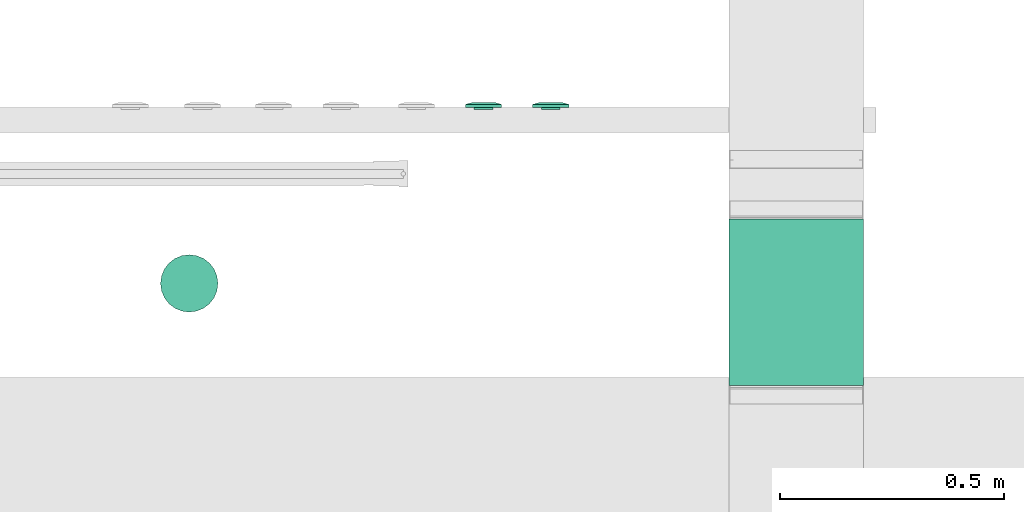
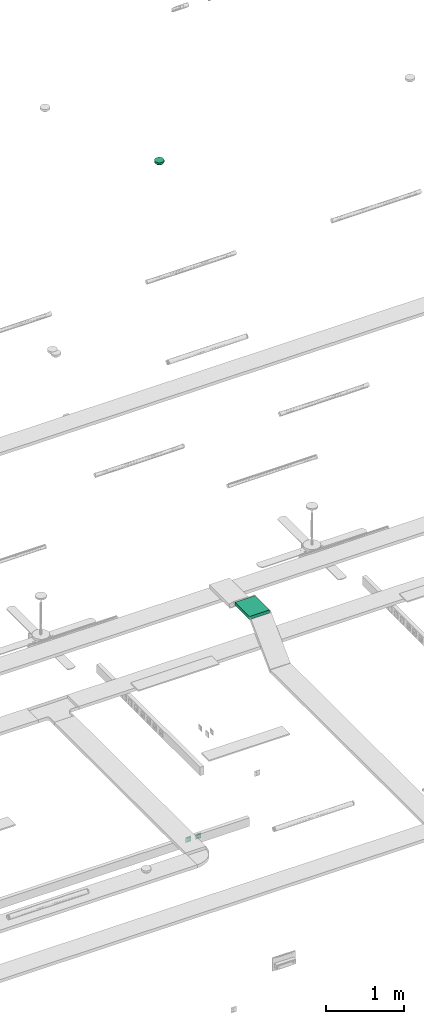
# One storey, part 99 of 153: 3 flow terminals, 1 flow segment.
"""IFC2X3 building model written with IfcOpenShell, lengths in metres."""

from ifc_helpers import new_model, entity, si_unit, converted_unit, derived_unit, direction, frame, origin, origin_2d_with_axis, place, context, subcontext, project, spatial, rectangle, extrude, faceted_brep, source, transform, mapped, type_object, type_shapes, element, save


model = new_model("IFC2X3")

# Units and contexts
model_context = context("Model", 3, precision=1e-05, world=origin(), true_north=direction((6.12303176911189e-17, 1.0)))
body_context = subcontext(model_context, "Body", "Model", "MODEL_VIEW")
ifc_project = project(units=[si_unit("LENGTHUNIT", "METRE"), si_unit("AREAUNIT", "SQUARE_METRE"), si_unit("VOLUMEUNIT", "CUBIC_METRE"), converted_unit("PLANEANGLEUNIT", "DEGREE", entity("IfcRatioMeasure", 0.0174532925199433), si_unit("PLANEANGLEUNIT", "RADIAN"), dimensions=[0, 0, 0, 0, 0, 0, 0]), si_unit("MASSUNIT", "GRAM", prefix="KILO"), derived_unit("MASSDENSITYUNIT", [(si_unit("MASSUNIT", "GRAM", prefix="KILO"), 1), (si_unit("LENGTHUNIT", "METRE"), -3)]), si_unit("TIMEUNIT", "SECOND"), si_unit("FREQUENCYUNIT", "HERTZ"), si_unit("THERMODYNAMICTEMPERATUREUNIT", "DEGREE_CELSIUS"), derived_unit("THERMALTRANSMITTANCEUNIT", [(si_unit("MASSUNIT", "GRAM", prefix="KILO"), 1), (si_unit("THERMODYNAMICTEMPERATUREUNIT", "KELVIN"), -1), (si_unit("TIMEUNIT", "SECOND"), -3)]), derived_unit("VOLUMETRICFLOWRATEUNIT", [(si_unit("LENGTHUNIT", "METRE"), 3), (si_unit("TIMEUNIT", "SECOND"), -1)]), si_unit("ELECTRICCURRENTUNIT", "AMPERE"), si_unit("ELECTRICVOLTAGEUNIT", "VOLT"), si_unit("POWERUNIT", "WATT"), si_unit("FORCEUNIT", "NEWTON"), si_unit("ILLUMINANCEUNIT", "LUX"), si_unit("LUMINOUSFLUXUNIT", "LUMEN"), si_unit("LUMINOUSINTENSITYUNIT", "CANDELA"), derived_unit("USERDEFINED", [(si_unit("MASSUNIT", "GRAM", prefix="KILO"), -1), (si_unit("LENGTHUNIT", "METRE"), -2), (si_unit("TIMEUNIT", "SECOND"), 3), (si_unit("LUMINOUSFLUXUNIT", "LUMEN"), 1)]), derived_unit("LINEARVELOCITYUNIT", [(si_unit("LENGTHUNIT", "METRE"), 1), (si_unit("TIMEUNIT", "SECOND"), -1)]), si_unit("PRESSUREUNIT", "PASCAL"), derived_unit("USERDEFINED", [(si_unit("LENGTHUNIT", "METRE"), -2), (si_unit("MASSUNIT", "GRAM", prefix="KILO"), 1), (si_unit("TIMEUNIT", "SECOND"), -2)])], contexts=[model_context])

# Site, building, storey
site_placement = place(None, origin())
site = spatial("IfcSite", under=ifc_project, at=site_placement, Name="Default", CompositionType="ELEMENT")
building_placement = place(site_placement, origin())
building = spatial("IfcBuilding", under=site, at=building_placement, CompositionType="ELEMENT")
storey_placement = place(building_placement, frame((0.0, 0.0, -4.62)))
storey = spatial("IfcBuildingStorey", under=building, at=storey_placement, Name="S02", CompositionType="ELEMENT", Elevation=-4.62)

# Flow terminals
electric_appliance_type = type_object("IfcElectricApplianceType", Name="RJ45 IP20", PredefinedType="NOTDEFINED")
shared_shape_1 = source(origin(), body_context, "Body", "Brep", [
    faceted_brep([(0.00200000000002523, 0.0, 0.00799999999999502), (0.00400000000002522, 0.0, 0.00799999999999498), (0.00500000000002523, 0.00199999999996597, 0.00799999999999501), (0.0110000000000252, 0.00199999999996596, 0.00799999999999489), (0.0120000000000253, 0.0, 0.00799999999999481), (0.0140000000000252, 0.0, 0.00799999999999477), (0.0140000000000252, 0.00399999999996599, 0.00799999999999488), (0.00200000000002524, 0.00399999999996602, 0.00799999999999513), (0.00200000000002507, 0.0, 0.0), (0.00200000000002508, 0.00399999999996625, 0.0), (0.0140000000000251, 0.00399999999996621, 0.0), (0.0140000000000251, 0.0, 0.0), (0.0120000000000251, 0.0, 0.0), (0.0110000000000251, 0.00199999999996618, 0.0), (0.00500000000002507, 0.0019999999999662, 0.0), (0.00400000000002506, 0.0, 0.0)], [[[0, 1, 2, 3, 4, 5, 6, 7]], [[8, 9, 10, 11, 12, 13, 14, 15]], [[1, 0, 8, 15]], [[2, 1, 15, 14]], [[3, 2, 14, 13]], [[4, 3, 13, 12]], [[5, 4, 12, 11]], [[6, 5, 11, 10]], [[7, 6, 10, 9]], [[0, 7, 9, 8]]]),
    faceted_brep([(-0.0139999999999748, 0.0, 0.00799999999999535), (-0.0119999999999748, 0.0, 0.00799999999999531), (-0.0109999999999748, 0.00199999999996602, 0.00799999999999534), (-0.00499999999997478, 0.00199999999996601, 0.00799999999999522), (-0.0039999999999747, 0.0, 0.00799999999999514), (-0.00199999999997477, 0.0, 0.0079999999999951), (-0.00199999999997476, 0.00399999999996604, 0.00799999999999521), (-0.0139999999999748, 0.00399999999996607, 0.00799999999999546), (-0.0139999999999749, 0.0, 0.0), (-0.0139999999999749, 0.00399999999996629, 0.0), (-0.00199999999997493, 0.00399999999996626, 0.0), (-0.00199999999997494, 0.0, 0.0), (-0.00399999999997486, 0.0, 0.0), (-0.00499999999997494, 0.00199999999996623, 0.0), (-0.0109999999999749, 0.00199999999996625, 0.0), (-0.0119999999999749, 0.0, 0.0)], [[[0, 1, 2, 3, 4, 5, 6, 7]], [[8, 9, 10, 11, 12, 13, 14, 15]], [[1, 0, 8, 15]], [[2, 1, 15, 14]], [[3, 2, 14, 13]], [[4, 3, 13, 12]], [[5, 4, 12, 11]], [[6, 5, 11, 10]], [[7, 6, 10, 9]], [[0, 7, 9, 8]]]),
    faceted_brep([(0.0140000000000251, 0.00399999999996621, 0.0), (0.00200000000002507, 0.00399999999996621, 0.0), (0.00200000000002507, -0.00350000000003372, 0.0), (0.0140000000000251, -0.00350000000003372, 0.0), (0.0140000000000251, 0.00399999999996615, 0.00199999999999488), (0.00200000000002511, 0.00399999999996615, 0.00199999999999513), (0.00200000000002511, -0.00393859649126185, 0.00199999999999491), (0.0140000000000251, -0.00393859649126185, 0.00199999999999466), (0.0210000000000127, 0.0209999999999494, 0.00199999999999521), (-0.0209999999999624, 0.0209999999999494, 0.00199999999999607), (-0.0209999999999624, -0.0210000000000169, 0.00199999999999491), (0.0210000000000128, -0.0210000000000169, 0.00199999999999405), (-0.0139999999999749, 0.0039999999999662, 0.00199999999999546), (-0.0019999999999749, 0.0039999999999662, 0.00199999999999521), (-0.00199999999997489, -0.0039385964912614, 0.00199999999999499), (-0.0139999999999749, -0.00393859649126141, 0.00199999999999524), (0.0210000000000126, 0.0209999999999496, -0.00460000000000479), (0.0210000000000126, -0.0210000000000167, -0.00460000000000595), (-0.0209999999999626, -0.0210000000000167, -0.00460000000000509), (-0.0209999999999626, 0.0209999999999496, -0.00460000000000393), (-0.00199999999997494, 0.00399999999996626, 0.0), (-0.0139999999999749, 0.00399999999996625, 0.0), (-0.0139999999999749, -0.00350000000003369, 0.0), (-0.00199999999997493, -0.00350000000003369, 0.0)], [[[0, 1, 2, 3]], [[1, 0, 4, 5]], [[2, 1, 5, 6]], [[3, 2, 6, 7]], [[0, 3, 7, 4]], [[5, 4, 7, 6], [8, 9, 10, 11], [12, 13, 14, 15]], [[16, 17, 18, 19]], [[9, 8, 16, 19]], [[10, 9, 19, 18]], [[11, 10, 18, 17]], [[8, 11, 17, 16]], [[20, 21, 22, 23]], [[21, 20, 13, 12]], [[22, 21, 12, 15]], [[23, 22, 15, 14]], [[20, 23, 14, 13]]], outer=[[True], [True], [True], [True], [True], [False, True, False], [True], [True], [True], [True], [True], [True], [True], [True], [True], [True]]),
    faceted_brep([(0.0270000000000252, 0.026999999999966, 0.0113999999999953), (-0.0269999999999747, 0.026999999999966, 0.0113999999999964), (-0.0269999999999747, -0.0270000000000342, 0.0113999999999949), (0.0270000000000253, -0.0270000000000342, 0.0113999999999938), (0.0020000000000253, 0.00399999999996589, 0.0113999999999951), (0.0140000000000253, 0.00399999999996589, 0.0113999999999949), (0.0140000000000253, -0.00600000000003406, 0.0113999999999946), (0.0020000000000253, -0.00600000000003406, 0.0113999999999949), (-0.0139999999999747, 0.00399999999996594, 0.0113999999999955), (-0.00199999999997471, 0.00399999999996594, 0.0113999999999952), (-0.00199999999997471, -0.0060000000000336, 0.0113999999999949), (-0.0139999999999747, -0.00600000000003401, 0.0113999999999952), (0.0270000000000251, 0.0269999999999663, 0.00199999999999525), (0.0270000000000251, -0.0270000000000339, 0.00199999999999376), (-0.0269999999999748, -0.0270000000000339, 0.00199999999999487), (-0.0269999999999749, 0.0269999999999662, 0.00199999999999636), (0.0140000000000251, 0.00399999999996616, 0.00199999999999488), (0.00200000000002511, 0.00399999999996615, 0.00199999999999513), (0.00200000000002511, -0.00393859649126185, 0.00199999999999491), (0.0140000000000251, -0.00393859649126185, 0.00199999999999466), (-0.00199999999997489, 0.0039999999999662, 0.00199999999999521), (-0.0139999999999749, 0.0039999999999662, 0.00199999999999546), (-0.0139999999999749, -0.0039385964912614, 0.00199999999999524), (-0.00199999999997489, -0.0039385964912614, 0.00199999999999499)], [[[0, 1, 2, 3], [4, 5, 6, 7], [8, 9, 10, 11]], [[12, 13, 14, 15], [16, 17, 18, 19], [20, 21, 22, 23]], [[1, 0, 12, 15]], [[2, 1, 15, 14]], [[3, 2, 14, 13]], [[0, 3, 13, 12]], [[4, 17, 16, 5]], [[17, 4, 7, 18]], [[18, 7, 6, 19]], [[5, 16, 19, 6]], [[8, 21, 20, 9]], [[21, 8, 11, 22]], [[22, 11, 10, 23]], [[9, 20, 23, 10]]]),
    faceted_brep([(0.027000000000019, 0.0269999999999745, 0.00659999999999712), (-0.0269999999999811, 0.0269999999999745, 0.00659999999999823), (-0.026999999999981, -0.0270000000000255, 0.00659999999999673), (0.027000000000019, -0.0270000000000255, 0.00659999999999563), (0.040350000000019, 0.0403499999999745, 0.00659999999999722), (0.040350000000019, -0.0403500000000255, 0.00659999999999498), (-0.0403499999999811, -0.0403500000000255, 0.00659999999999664), (-0.0403499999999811, 0.0403499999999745, 0.00659999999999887), (-0.026999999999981, 0.0269999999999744, 0.0103999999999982), (0.027000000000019, 0.0269999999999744, 0.0103999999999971), (-0.026999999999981, -0.0270000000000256, 0.0103999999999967), (0.027000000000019, -0.0270000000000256, 0.0103999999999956)], [[[0, 1, 2, 3], [4, 5, 6, 7]], [[4, 7, 8, 9]], [[7, 6, 10, 8]], [[6, 5, 11, 10]], [[5, 4, 9, 11]], [[0, 9, 8, 1]], [[1, 8, 10, 2]], [[2, 10, 11, 3]], [[9, 0, 3, 11]]], outer=[[False, True], [True], [True], [True], [True], [True], [True], [True], [True]]),
    faceted_brep([(0.040350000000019, 0.0403499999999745, 0.00659999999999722), (-0.0403499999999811, 0.0403499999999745, 0.00659999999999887), (-0.0403499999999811, -0.0403500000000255, 0.00659999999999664), (0.040350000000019, -0.0403500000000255, 0.00659999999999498), (-0.0269999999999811, 0.0269999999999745, 0.00659999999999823), (0.0270000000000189, 0.0269999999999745, 0.00659999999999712), (0.0270000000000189, -0.0270000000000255, 0.00659999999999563), (-0.0269999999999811, -0.0270000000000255, 0.00659999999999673), (0.0403500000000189, 0.0403499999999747, 0.0), (0.0403500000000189, -0.0403500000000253, 0.0), (-0.0403499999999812, -0.0403500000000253, 0.0), (-0.0403499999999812, 0.0403499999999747, 0.0), (0.0270000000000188, 0.0269999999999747, 0.0), (-0.0269999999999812, 0.0269999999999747, 0.0), (-0.0269999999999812, -0.0270000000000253, 0.0), (0.0270000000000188, -0.0270000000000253, 0.0)], [[[0, 1, 2, 3], [4, 5, 6, 7]], [[8, 9, 10, 11], [12, 13, 14, 15]], [[1, 0, 8, 11]], [[2, 1, 11, 10]], [[3, 2, 10, 9]], [[0, 3, 9, 8]], [[12, 5, 4, 13]], [[13, 4, 7, 14]], [[14, 7, 6, 15]], [[5, 12, 15, 6]]]),
])
type_shapes(electric_appliance_type, [shared_shape_1])
for number, where, z_axis, x_axis in (
    (1, (56.5023946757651, -189.113069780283, -4.18699999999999), (0.0, 1.0, 0.0), (-1.0, 0.0, 0.0)),
    (2, (56.6523946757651, -189.113069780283, -4.18700000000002), (0.0, 1.0, 0.0), (1.0, 0.0, 0.0)),
):
    element("IfcFlowTerminal", number, at=place(building_placement, frame(where, z_axis=z_axis, x_axis=x_axis)), inside=storey, type_object=electric_appliance_type, Name="INT_Prise RJ45:RJ45 IP20", ObjectType="INT_Prise RJ45:RJ45 IP20", context=body_context, shape_type="MappedRepresentation", body=[
        mapped(shared_shape_1, transform((0.0, 0.0, 0.0), scale=1.0)),
    ])

# Flow segment
cable_carrier_segment_type = type_object("IfcCableCarrierSegmentType", Name="Cable Tray with Fittings:Chemins de câbles en treillis_Chemins de câbles en treillis", PredefinedType="NOTDEFINED")
flow_segment_placement = place(building_placement, frame((0.0, 0.0, -4.62)))
element("IfcFlowSegment", 3, at=flow_segment_placement, inside=storey, type_object=cable_carrier_segment_type, Name="Cable Tray with Fittings:Chemins de câbles en treillis_Chemins de câbles en treillis", ObjectType="Cable Tray with Fittings:Chemins de câbles en treillis_Chemins de câbles en treillis", context=body_context, shape_type="SweptSolid", body=[
    extrude(rectangle(XDim=0.371697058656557, YDim=0.300000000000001, at=origin_2d_with_axis()), frame((57.2004483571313, -189.548599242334, 4.06057211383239), z_axis=(0.0, 0.0, 1.0), x_axis=(0.0, 1.0, 0.0)), (0.0, 0.0, 1.0), 0.05),
])

# Flow terminal
light_fixture_type = type_object("IfcLightFixtureType", Name="Détecteur 360°", PredefinedType="NOTDEFINED")
shared_shape_2 = source(origin(), body_context, "Body", "Brep", [
    faceted_brep([(0.0, -0.0397165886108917, 0.0531256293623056), (0.0, -0.034524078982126, 0.0563702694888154), (-0.0175153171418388, -0.0435914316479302, 0.0478512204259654), (-0.0194029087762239, -0.000878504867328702, 0.0644483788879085), (0.0, 0.0, 0.0669999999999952), (0.0, 0.00603476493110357, 0.0659648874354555), (-0.0174057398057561, -0.0159851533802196, 0.0630502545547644), (-0.0366619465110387, -0.0127227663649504, 0.0549213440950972), (-0.026998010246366, -0.0195753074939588, 0.0584711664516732), (-0.0202403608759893, -0.0335607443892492, 0.054639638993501), (-0.0359767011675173, -0.0348394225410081, 0.0444249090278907), (-0.0276843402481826, -0.0401006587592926, 0.0459804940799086), (-0.0133088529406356, -0.0517577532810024, 0.0400582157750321), (-0.0172617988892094, -0.0486391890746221, 0.042533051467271), (-0.0256912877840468, -0.0533485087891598, 0.0299999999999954), (-0.0462941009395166, -0.0369183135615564, 0.0299999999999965), (0.0, -0.0241390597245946, 0.0628595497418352), (-0.0186245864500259, -0.0267295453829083, 0.0589100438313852), (-0.0139070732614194, -0.0374370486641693, 0.0540817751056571), (0.0, 0.0449090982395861, 0.049880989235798), (-0.0172618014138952, 0.0486391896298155, 0.0425330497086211), (0.0, 0.0397165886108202, 0.0531256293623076), (-0.0186245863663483, 0.0267295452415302, 0.0589100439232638), (-0.0202403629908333, 0.0335607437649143, 0.054639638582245), (-0.0353547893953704, 0.0284533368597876, 0.0494330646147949), (0.0, 0.0120695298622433, 0.0649297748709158), (-0.0249385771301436, 0.0204731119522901, 0.0590841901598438), (-0.0191783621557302, 0.0150189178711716, 0.062775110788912), (-0.0465404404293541, -0.0196510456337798, 0.0438984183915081), (-0.052010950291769, -0.0250471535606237, 0.029999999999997), (-0.0453471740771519, -0.0286501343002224, 0.0397747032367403), (-0.0365036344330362, -0.0226255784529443, 0.0516441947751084), (-0.0175153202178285, 0.0435914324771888, 0.0478512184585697), (-0.0359926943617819, 0.0451334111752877, 0.0299999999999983), (-0.0276843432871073, 0.0401006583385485, 0.0459804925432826), (-0.00849704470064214, -0.0572729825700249, 0.0299999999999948), (0.0, -0.0592123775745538, 0.0299999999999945), (0.0, -0.0545512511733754, 0.0364787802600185), (0.0, -0.049890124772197, 0.0429575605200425), (-0.0169940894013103, -0.055333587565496, 0.0299999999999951), (-0.0359767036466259, 0.0348394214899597, 0.0444249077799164), (-0.025691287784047, 0.0533485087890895, 0.0299999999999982), (-0.0308419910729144, 0.0492409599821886, 0.0299999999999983), (-0.0130265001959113, 0.0514867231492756, 0.040526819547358), (-0.0169940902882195, 0.0553335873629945, 0.029999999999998), (0.0, 0.0498901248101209, 0.0429575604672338), (-0.0353547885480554, -0.0284533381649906, 0.0494330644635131), (0.0, 0.0181042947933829, 0.0638946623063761), (-0.0473669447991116, -0.00128092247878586, 0.0474310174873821), (-0.0485435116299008, -0.00908961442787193, 0.0452357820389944), (-0.0366597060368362, -0.0032867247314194, 0.0563153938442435), (-0.0226425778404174, -0.0107553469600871, 0.0624973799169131), (0.0, -0.00603476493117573, 0.0659648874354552), (0.0, 0.0293315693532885, 0.0596149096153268), (-0.0139070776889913, 0.0374370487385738, 0.0540817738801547), (-0.0449600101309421, 0.018422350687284, 0.0461366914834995), (-0.0453471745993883, 0.0286501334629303, 0.0397747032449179), (-0.0476906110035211, 0.00670602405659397, 0.0466053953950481), (-0.0577277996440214, 0.0131759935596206, 0.0299999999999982), (-0.0577277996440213, 0.00658799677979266, 0.029999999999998), (-0.0577277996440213, 0.0, 0.0299999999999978), (0.0, -0.0449090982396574, 0.0498809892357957), (-0.0308419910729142, -0.049240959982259, 0.0299999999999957), (-0.0359926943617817, -0.0451334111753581, 0.029999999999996), (0.0, 0.0345240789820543, 0.0563702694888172), (-0.0411433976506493, 0.0410258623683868, 0.0299999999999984), (-0.0462941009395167, 0.0369183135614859, 0.0299999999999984), (-0.0491525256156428, -0.03098273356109, 0.0299999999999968), (-0.0577277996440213, -0.0131759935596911, 0.0299999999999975), (0.0, -0.018104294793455, 0.0638946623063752), (-0.0377433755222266, 0.0044838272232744, 0.0554913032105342), (-0.0577277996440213, -0.00658799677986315, 0.0299999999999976), (-0.0385149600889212, 0.0124844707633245, 0.0536578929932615), (-0.0491525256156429, 0.0309827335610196, 0.0299999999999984), (-0.0548693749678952, 0.0191115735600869, 0.0299999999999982), (0.0, 0.0241390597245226, 0.0628595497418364), (-0.014625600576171, 0.0100436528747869, 0.0649170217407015), (-0.0271766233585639, 0.00920278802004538, 0.0609170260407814), (0.0, -0.0120695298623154, 0.0649297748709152), (-0.0520109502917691, 0.0250471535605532, 0.0299999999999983), (-0.0411433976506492, -0.0410258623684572, 0.0299999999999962), (-0.0548693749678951, -0.0191115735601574, 0.0299999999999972), (0.0, -0.0293315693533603, 0.0596149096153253), (0.0, 0.0545512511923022, 0.0364787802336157), (0.0, 0.0592123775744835, 0.0299999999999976), (-0.00849704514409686, 0.057272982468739, 0.0299999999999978), (-0.0127455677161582, 0.0563032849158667, 0.0299999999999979), (-0.0213426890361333, 0.054341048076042, 0.0299999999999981), (0.0175153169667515, 0.0435914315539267, 0.0478512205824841), (0.0194029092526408, 0.000878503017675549, 0.0644483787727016), (0.017405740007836, 0.0159851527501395, 0.0630502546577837), (0.0366619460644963, 0.012722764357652, 0.0549213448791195), (0.0269980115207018, 0.0195753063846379, 0.0584711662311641), (0.0202403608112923, 0.0335607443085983, 0.0546396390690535), (0.0359767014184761, 0.0348394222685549, 0.0444249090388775), (0.0276843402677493, 0.0401006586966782, 0.0459804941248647), (0.0133088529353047, 0.0517577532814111, 0.0400582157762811), (0.0172617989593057, 0.0486391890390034, 0.0425330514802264), (0.0256912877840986, 0.0533485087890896, 0.0299999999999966), (0.0462941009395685, 0.0369183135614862, 0.0299999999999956), (0.00849704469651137, 0.0572729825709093, 0.0299999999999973), (0.0169940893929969, 0.0553335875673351, 0.029999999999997), (0.0172617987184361, -0.0486391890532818, 0.0425330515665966), (0.025691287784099, -0.0533485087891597, 0.0299999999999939), (0.0308419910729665, -0.0492409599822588, 0.0299999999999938), (0.0175153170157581, -0.0435914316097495, 0.0478512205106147), (0.0186245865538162, -0.0267295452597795, 0.0589100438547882), (0.0202403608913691, -0.03356074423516, 0.0546396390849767), (0.0353547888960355, -0.0284533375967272, 0.0494330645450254), (0.0249385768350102, -0.0204731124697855, 0.0590841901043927), (0.0191783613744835, -0.0150189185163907, 0.062775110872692), (0.0465404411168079, 0.0196510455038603, 0.0438984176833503), (0.0577277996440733, 0.0131759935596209, 0.0299999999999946), (0.0548693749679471, 0.0191115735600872, 0.0299999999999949), (0.0520109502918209, 0.0250471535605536, 0.0299999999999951), (0.0365036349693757, 0.0226255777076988, 0.0516441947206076), (0.0186245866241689, 0.0267295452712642, 0.0589100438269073), (0.0359926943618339, -0.0451334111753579, 0.0299999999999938), (0.0276843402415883, -0.0401006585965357, 0.0459804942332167), (0.0139070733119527, 0.0374370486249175, 0.0540817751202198), (0.0359767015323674, -0.0348394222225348, 0.044424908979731), (0.0226425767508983, 0.0107553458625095, 0.0624973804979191), (0.0169940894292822, -0.0553335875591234, 0.0299999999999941), (0.0130264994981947, -0.0514867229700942, 0.0405268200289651), (0.0453471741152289, 0.0286501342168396, 0.039774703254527), (0.0353547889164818, 0.0284533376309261, 0.0494330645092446), (0.0473669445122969, 0.00128092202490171, 0.0474310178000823), (0.0485435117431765, 0.00908961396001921, 0.0452357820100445), (0.0366597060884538, 0.00328672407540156, 0.0563153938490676), (0.0139070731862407, -0.0374370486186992, 0.0540817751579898), (0.0449600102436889, -0.018422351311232, 0.0461366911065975), (0.0453471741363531, -0.0286501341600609, 0.039774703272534), (0.0476906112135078, -0.00670602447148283, 0.046605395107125), (0.0577277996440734, -0.0131759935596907, 0.0299999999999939), (0.0577277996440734, -0.00658799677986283, 0.0299999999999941), (0.0577277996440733, 0.0, 0.0299999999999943), (0.0308419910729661, 0.0492409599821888, 0.0299999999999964), (0.0359926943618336, 0.0451334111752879, 0.0299999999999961), (0.0411433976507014, -0.041025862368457, 0.0299999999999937), (0.0462941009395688, -0.0369183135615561, 0.0299999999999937), (0.0491525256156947, 0.0309827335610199, 0.0299999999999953), (0.037743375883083, -0.00448382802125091, 0.0554913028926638), (0.0577277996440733, 0.00658799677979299, 0.0299999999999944), (0.0385149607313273, -0.0124844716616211, 0.0536578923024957), (0.049152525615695, -0.0309827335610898, 0.0299999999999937), (0.0548693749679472, -0.0191115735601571, 0.0299999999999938), (0.0146256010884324, -0.0100436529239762, 0.0649170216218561), (0.0271766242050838, -0.00920278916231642, 0.0609170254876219), (0.0520109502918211, -0.0250471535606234, 0.0299999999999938), (0.041143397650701, 0.0410258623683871, 0.0299999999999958), (0.00849704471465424, -0.0572729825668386, 0.0299999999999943), (0.0127455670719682, -0.056303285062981, 0.0299999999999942), (0.0213426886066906, -0.0543410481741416, 0.029999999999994), (0.0, 0.0, 0.0299999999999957)], [[[0, 1, 2]], [[3, 4, 5]], [[6, 7, 8]], [[9, 10, 11]], [[12, 13, 14]], [[10, 15, 11]], [[9, 16, 17]], [[18, 9, 11]], [[19, 20, 21]], [[22, 23, 24]], [[25, 26, 27]], [[28, 29, 30]], [[8, 31, 17]], [[32, 33, 34]], [[35, 36, 37, 38, 39]], [[23, 40, 24]], [[20, 41, 42]], [[19, 43, 20]], [[44, 43, 45]], [[20, 32, 21]], [[30, 10, 46]], [[22, 26, 47]], [[48, 49, 50]], [[3, 51, 52]], [[53, 54, 23]], [[55, 24, 56]], [[57, 58, 59, 60]], [[13, 61, 0]], [[13, 0, 2]], [[2, 62, 13]], [[18, 2, 1]], [[2, 11, 63]], [[32, 64, 21]], [[32, 42, 33]], [[34, 33, 65, 66]], [[20, 42, 32]], [[54, 32, 34]], [[28, 30, 31]], [[10, 67, 15]], [[49, 68, 28]], [[8, 17, 69]], [[7, 6, 51]], [[28, 31, 7]], [[57, 48, 70]], [[58, 57, 55]], [[48, 71, 49]], [[70, 48, 50]], [[3, 50, 51]], [[55, 26, 24]], [[72, 57, 70]], [[26, 55, 72]], [[56, 40, 73]], [[56, 74, 55]], [[47, 75, 22]], [[52, 4, 3]], [[7, 50, 49]], [[5, 76, 3]], [[70, 3, 77]], [[51, 78, 52]], [[26, 25, 47]], [[76, 25, 27]], [[23, 22, 75]], [[26, 22, 24]], [[53, 64, 54]], [[23, 34, 40]], [[66, 40, 34]], [[40, 66, 73]], [[56, 73, 79, 74]], [[72, 27, 26]], [[40, 56, 24]], [[23, 75, 53]], [[69, 17, 16]], [[78, 6, 69]], [[46, 10, 9]], [[46, 9, 17]], [[50, 7, 51]], [[30, 29, 67]], [[80, 63, 11, 15]], [[28, 68, 81, 29]], [[10, 30, 67]], [[30, 46, 31]], [[82, 18, 1]], [[82, 16, 9]], [[28, 7, 49]], [[12, 39, 38]], [[61, 13, 12]], [[83, 84, 85, 86, 44, 45]], [[43, 41, 20]], [[44, 87, 41, 43]], [[32, 54, 64]], [[23, 54, 34]], [[9, 18, 82]], [[2, 18, 11]], [[39, 12, 14]], [[38, 61, 12]], [[62, 2, 63]], [[62, 14, 13]], [[17, 31, 46]], [[7, 31, 8]], [[48, 60, 71]], [[71, 68, 49]], [[60, 48, 57]], [[3, 70, 50]], [[72, 70, 77]], [[72, 77, 27]], [[55, 57, 72]], [[74, 58, 55]], [[76, 27, 77]], [[3, 76, 77]], [[25, 76, 5]], [[69, 6, 8]], [[78, 51, 6]], [[45, 43, 19]], [[21, 64, 88]], [[89, 4, 52]], [[90, 91, 92]], [[93, 94, 95]], [[96, 97, 98]], [[94, 99, 95]], [[100, 84, 83, 45, 101]], [[102, 103, 104]], [[102, 105, 0]], [[106, 107, 108]], [[78, 109, 110]], [[111, 112, 113, 114]], [[92, 115, 116]], [[105, 117, 118]], [[119, 93, 95]], [[107, 120, 108]], [[89, 121, 5]], [[122, 123, 38]], [[61, 123, 102]], [[93, 75, 116]], [[124, 94, 125]], [[106, 109, 69]], [[126, 127, 128]], [[61, 102, 0]], [[82, 129, 107]], [[130, 108, 131]], [[132, 133, 134, 135]], [[97, 19, 21]], [[97, 21, 88]], [[88, 136, 97]], [[119, 88, 64]], [[88, 95, 137]], [[105, 1, 0]], [[105, 104, 117]], [[118, 117, 138, 139]], [[102, 104, 105]], [[129, 105, 118]], [[111, 124, 115]], [[94, 140, 99]], [[127, 112, 111]], [[92, 116, 47]], [[91, 90, 121]], [[111, 115, 91]], [[132, 126, 141]], [[133, 132, 130]], [[126, 142, 127]], [[141, 126, 128]], [[89, 128, 121]], [[130, 109, 108]], [[143, 132, 141]], [[109, 130, 143]], [[131, 120, 144]], [[131, 145, 130]], [[69, 16, 106]], [[5, 4, 89]], [[91, 128, 127]], [[52, 146, 89]], [[141, 89, 147]], [[121, 25, 5]], [[109, 78, 69]], [[146, 78, 110]], [[107, 106, 16]], [[109, 106, 108]], [[82, 1, 129]], [[107, 118, 120]], [[139, 120, 118]], [[120, 139, 144]], [[131, 144, 148, 145]], [[143, 110, 109]], [[120, 131, 108]], [[107, 16, 82]], [[47, 116, 75]], [[25, 90, 47]], [[125, 94, 93]], [[125, 93, 116]], [[128, 91, 121]], [[124, 114, 140]], [[149, 137, 95, 99]], [[111, 114, 124]], [[94, 124, 140]], [[124, 125, 115]], [[53, 119, 64]], [[53, 75, 93]], [[111, 91, 127]], [[96, 101, 45]], [[19, 97, 96]], [[37, 36, 150, 151, 122, 38]], [[123, 103, 102]], [[122, 152, 103, 123]], [[105, 129, 1]], [[107, 129, 118]], [[93, 119, 53]], [[88, 119, 95]], [[101, 96, 98]], [[45, 19, 96]], [[136, 88, 137]], [[136, 98, 97]], [[116, 115, 125]], [[91, 115, 92]], [[126, 135, 142]], [[142, 112, 127]], [[135, 126, 132]], [[89, 141, 128]], [[143, 141, 147]], [[143, 147, 110]], [[130, 132, 143]], [[145, 133, 130]], [[146, 110, 147]], [[89, 146, 147]], [[78, 146, 52]], [[47, 90, 92]], [[25, 121, 90]], [[38, 123, 61]], [[153, 66, 65]], [[153, 65, 33]], [[153, 33, 42]], [[153, 42, 41]], [[153, 41, 87]], [[153, 73, 66]], [[153, 79, 73]], [[153, 74, 79]], [[153, 58, 74]], [[153, 87, 44]], [[153, 44, 86]], [[153, 86, 85]], [[153, 85, 84]], [[153, 84, 100]], [[153, 59, 58]], [[153, 60, 59]], [[153, 71, 60]], [[153, 68, 71]], [[153, 81, 68]], [[153, 29, 81]], [[153, 67, 29]], [[153, 15, 67]], [[153, 80, 15]], [[153, 63, 80]], [[153, 62, 63]], [[153, 14, 62]], [[153, 39, 14]], [[153, 35, 39]], [[153, 36, 35]], [[153, 100, 101]], [[153, 101, 98]], [[153, 98, 136]], [[153, 136, 137]], [[153, 137, 149]], [[153, 149, 99]], [[153, 99, 140]], [[153, 140, 114]], [[153, 114, 113]], [[153, 113, 112]], [[153, 112, 142]], [[153, 150, 36]], [[153, 151, 150]], [[153, 122, 151]], [[153, 152, 122]], [[153, 103, 152]], [[153, 104, 103]], [[153, 117, 104]], [[153, 138, 117]], [[153, 139, 138]], [[153, 144, 139]], [[153, 148, 144]], [[153, 145, 148]], [[153, 133, 145]], [[153, 142, 135]], [[153, 135, 134]], [[153, 134, 133]]]),
    faceted_brep([(0.0165644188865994, -0.0618192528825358, 0.029999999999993), (0.0320000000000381, -0.0554256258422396, 0.0299999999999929), (0.0452548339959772, -0.0452548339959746, 0.0299999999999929), (0.0554256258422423, -0.0320000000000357, 0.029999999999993), (0.0618192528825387, -0.016564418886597, 0.0299999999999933), (0.0640000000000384, 0.0, 0.0299999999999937), (0.0618192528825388, 0.016564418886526, 0.0299999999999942), (0.0554256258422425, 0.0319999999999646, 0.0299999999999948), (0.0452548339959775, 0.0452548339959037, 0.0299999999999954), (0.0320000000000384, 0.0554256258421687, 0.0299999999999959), (0.0165644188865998, 0.061819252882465, 0.0299999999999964), (0.0, 0.0639999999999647, 0.0299999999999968), (-0.0165644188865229, 0.061819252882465, 0.0299999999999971), (-0.0319999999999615, 0.0554256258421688, 0.0299999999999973), (-0.0452548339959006, 0.0452548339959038, 0.0299999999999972), (-0.0554256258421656, 0.0319999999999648, 0.0299999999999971), (-0.0618192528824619, 0.0165644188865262, 0.0299999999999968), (-0.0639999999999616, 0.0, 0.0299999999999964), (-0.061819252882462, -0.0165644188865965, 0.0299999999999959), (-0.0554256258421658, -0.0320000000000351, 0.0299999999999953), (-0.0452548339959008, -0.0452548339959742, 0.0299999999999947), (-0.0319999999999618, -0.0554256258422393, 0.0299999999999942), (-0.0165644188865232, -0.0618192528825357, 0.0299999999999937), (0.0, -0.0640000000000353, 0.0299999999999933), (0.0165644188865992, 0.0618192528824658, 0.0), (0.0320000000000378, 0.0554256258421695, 0.0), (0.0452548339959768, 0.0452548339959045, 0.0), (0.0554256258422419, 0.0319999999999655, 0.0), (0.0618192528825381, 0.0165644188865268, 0.0), (0.0640000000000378, 0.0, 0.0), (0.061819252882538, -0.0165644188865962, 0.0), (0.0554256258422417, -0.0320000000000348, 0.0), (0.0452548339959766, -0.0452548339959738, 0.0), (0.0320000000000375, -0.0554256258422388, 0.0), (0.0165644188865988, -0.061819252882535, 0.0), (0.0, -0.0640000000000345, 0.0), (-0.0165644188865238, -0.0618192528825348, 0.0), (-0.0319999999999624, -0.0554256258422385, 0.0), (-0.0452548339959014, -0.0452548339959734, 0.0), (-0.0554256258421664, -0.0320000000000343, 0.0), (-0.0618192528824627, -0.0165644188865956, 0.0), (-0.0639999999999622, 0.0, 0.0), (-0.0618192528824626, 0.016564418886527, 0.0), (-0.0554256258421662, 0.0319999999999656, 0.0), (-0.0452548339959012, 0.0452548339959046, 0.0), (-0.0319999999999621, 0.0554256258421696, 0.0), (-0.0165644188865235, 0.0618192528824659, 0.0), (0.0, 0.0639999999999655, 0.0)], [[[0, 1, 2, 3, 4, 5, 6, 7, 8, 9, 10, 11, 12, 13, 14, 15, 16, 17, 18, 19, 20, 21, 22, 23]], [[24, 25, 26, 27, 28, 29, 30, 31, 32, 33, 34, 35, 36, 37, 38, 39, 40, 41, 42, 43, 44, 45, 46, 47]], [[40, 18, 17, 41]], [[39, 19, 18, 40]], [[21, 20, 38, 37]], [[39, 38, 20, 19]], [[22, 21, 37, 36]], [[23, 22, 36, 35]], [[34, 0, 23, 35]], [[33, 1, 0, 34]], [[3, 2, 32, 31]], [[33, 32, 2, 1]], [[4, 3, 31, 30]], [[5, 4, 30, 29]], [[28, 6, 5, 29]], [[27, 7, 6, 28]], [[9, 8, 26, 25]], [[27, 26, 8, 7]], [[10, 9, 25, 24]], [[11, 10, 24, 47]], [[46, 12, 11, 47]], [[45, 13, 12, 46]], [[42, 41, 17, 16]], [[44, 14, 13, 45]], [[43, 15, 14, 44]], [[43, 42, 16, 15]]]),
])
type_shapes(light_fixture_type, [shared_shape_2])
flow_terminal_placement = place(building_placement, frame((55.8454544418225, -189.50606962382, 6.93), z_axis=(0.0, 0.0, -1.0), x_axis=(-1.0, 0.0, 0.0)))
element("IfcFlowTerminal", 4, at=flow_terminal_placement, inside=storey, type_object=light_fixture_type, Name="INT - Détecteur Luminosite:Détecteur 360°", ObjectType="INT - Détecteur Luminosite:Détecteur 360°", context=body_context, shape_type="MappedRepresentation", body=[
    mapped(shared_shape_2, transform((0.0, 0.0, 0.0), scale=1.0)),
])

save(model, "model.ifc")
